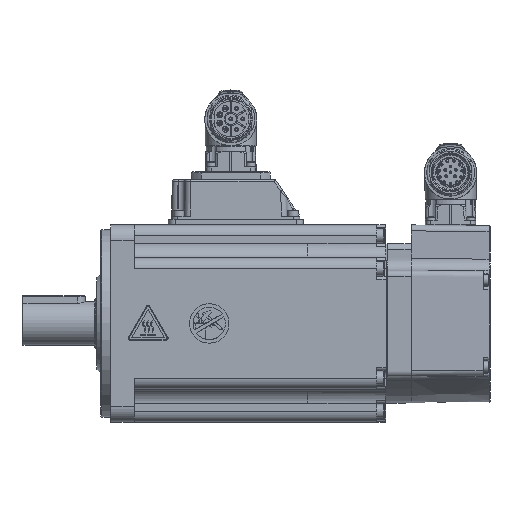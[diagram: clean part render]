
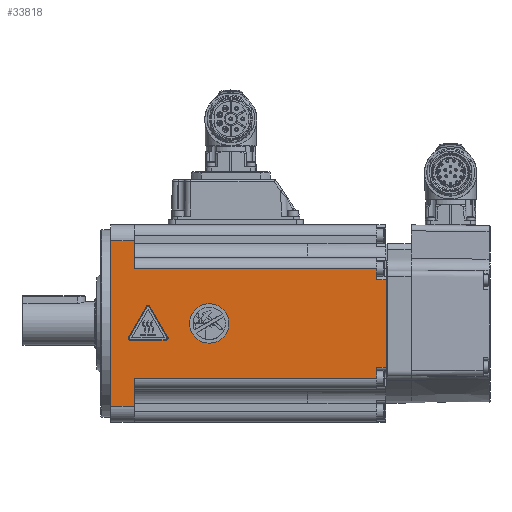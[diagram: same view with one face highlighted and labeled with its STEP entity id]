
A CAD part, front view. The second image highlights one B-rep face of the part: STEP entity #33818.
In plain terms, the highlighted planar face has unit normal (0, -1, 0).
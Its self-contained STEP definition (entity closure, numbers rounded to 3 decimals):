
#33818 = ADVANCED_FACE( '', ( #57172, #57173, #57174 ), #57175, .T. );
#57172 = FACE_BOUND( '', #66822, .T. );
#57173 = FACE_OUTER_BOUND( '', #66823, .T. );
#57174 = FACE_BOUND( '', #66824, .T. );
#57175 = PLANE( '', #66825 );
#58709 = EDGE_CURVE( '', #69211, #69281, #69283, .T. );
#58784 = EDGE_CURVE( 'NONE', #69413, #69414, #69415, .T. );
#60968 = EDGE_CURVE( '', #73000, #72998, #73001, .T. );
#61260 = EDGE_CURVE( '', #73452, #73453, #73454, .F. );
#61713 = EDGE_CURVE( 'NONE', #69414, #74157, #74158, .T. );
#62379 = EDGE_CURVE( 'NONE', #75138, #75140, #75141, .T. );
#63132 = EDGE_CURVE( '', #76242, #76242, #76243, .T. );
#63654 = EDGE_CURVE( '', #76947, #76945, #76948, .F. );
#64239 = EDGE_CURVE( '', #73000, #77735, #77736, .T. );
#64260 = EDGE_CURVE( '', #77766, #77764, #77767, .T. );
#64808 = EDGE_CURVE( '', #78461, #76947, #78462, .T. );
#65486 = EDGE_CURVE( '', #79276, #73453, #79277, .T. );
#65920 = EDGE_CURVE( 'NONE', #74157, #79781, #79782, .T. );
#66118 = EDGE_CURVE( '', #72998, #73452, #79999, .T. );
#66183 = EDGE_CURVE( 'NONE', #75140, #69413, #80072, .T. );
#66494 = EDGE_CURVE( '', #76945, #69211, #80387, .T. );
#66523 = EDGE_CURVE( 'NONE', #79781, #75138, #80420, .T. );
#66573 = EDGE_CURVE( '', #69281, #77766, #80473, .F. );
#66822 = EDGE_LOOP( '', ( #80870 ) );
#66823 = EDGE_LOOP( '', ( #80871, #80872, #80873, #80874, #80875, #80876, #80877, #80878, #80879, #80880, #80881, #80882, #80883 ) );
#66824 = EDGE_LOOP( '', ( #80884, #80885, #80886, #80887, #80888, #80889 ) );
#66825 = AXIS2_PLACEMENT_3D( '', #80890, #80891, #80892 );
#69211 = VERTEX_POINT( '', #85691 );
#69281 = VERTEX_POINT( '', #85779 );
#69283 = LINE( '', #85781, #85782 );
#69413 = VERTEX_POINT( 'NONE', #86152 );
#69414 = VERTEX_POINT( '', #86153 );
#69415 = CIRCLE( '', #86154, 1. );
#72998 = VERTEX_POINT( '', #93334 );
#73000 = VERTEX_POINT( '', #93336 );
#73001 = LINE( '', #93337, #93338 );
#73452 = VERTEX_POINT( '', #94241 );
#73453 = VERTEX_POINT( '', #94242 );
#73454 = LINE( '', #94243, #94244 );
#74157 = VERTEX_POINT( 'NONE', #95786 );
#74158 = LINE( '', #95787, #95788 );
#75138 = VERTEX_POINT( 'NONE', #97857 );
#75140 = VERTEX_POINT( 'NONE', #97860 );
#75141 = CIRCLE( '', #97861, 1. );
#76242 = VERTEX_POINT( '', #100096 );
#76243 = CIRCLE( '', #100097, 10. );
#76945 = VERTEX_POINT( '', #101706 );
#76947 = VERTEX_POINT( '', #101708 );
#76948 = LINE( '', #101709, #101710 );
#77735 = VERTEX_POINT( '', #103370 );
#77736 = LINE( '', #103371, #103372 );
#77764 = VERTEX_POINT( '', #103411 );
#77766 = VERTEX_POINT( '', #103413 );
#77767 = LINE( '', #103414, #103415 );
#78461 = VERTEX_POINT( '', #104696 );
#78462 = LINE( '', #104697, #104698 );
#79276 = VERTEX_POINT( '', #106350 );
#79277 = LINE( '', #106351, #106352 );
#79781 = VERTEX_POINT( 'NONE', #107443 );
#79782 = CIRCLE( '', #107444, 1. );
#79999 = LINE( '', #107835, #107836 );
#80072 = LINE( '', #107946, #107947 );
#80387 = LINE( '', #108348, #108349 );
#80420 = LINE( '', #108404, #108405 );
#80473 = LINE( '', #108463, #108464 );
#80870 = ORIENTED_EDGE( '', *, *, #63132, .F. );
#80871 = ORIENTED_EDGE( '', *, *, #108812, .T. );
#80872 = ORIENTED_EDGE( '', *, *, #64808, .T. );
#80873 = ORIENTED_EDGE( '', *, *, #63654, .T. );
#80874 = ORIENTED_EDGE( '', *, *, #66494, .T. );
#80875 = ORIENTED_EDGE( '', *, *, #58709, .T. );
#80876 = ORIENTED_EDGE( '', *, *, #66573, .T. );
#80877 = ORIENTED_EDGE( '', *, *, #64260, .T. );
#80878 = ORIENTED_EDGE( '', *, *, #108813, .T. );
#80879 = ORIENTED_EDGE( '', *, *, #64239, .F. );
#80880 = ORIENTED_EDGE( '', *, *, #60968, .T. );
#80881 = ORIENTED_EDGE( '', *, *, #66118, .T. );
#80882 = ORIENTED_EDGE( '', *, *, #61260, .T. );
#80883 = ORIENTED_EDGE( '', *, *, #65486, .F. );
#80884 = ORIENTED_EDGE( '', *, *, #62379, .F. );
#80885 = ORIENTED_EDGE( '', *, *, #66523, .F. );
#80886 = ORIENTED_EDGE( '', *, *, #65920, .F. );
#80887 = ORIENTED_EDGE( '', *, *, #61713, .F. );
#80888 = ORIENTED_EDGE( '', *, *, #58784, .F. );
#80889 = ORIENTED_EDGE( '', *, *, #66183, .F. );
#80890 = CARTESIAN_POINT( '', ( 111.642, -50., -50. ) );
#80891 = DIRECTION( '', ( 0., -1., 0. ) );
#80892 = DIRECTION( '', ( 1., 0., 0. ) );
#85691 = CARTESIAN_POINT( '', ( -8.25, -50., 0. ) );
#85779 = CARTESIAN_POINT( '', ( -8.444, -50., 22.25 ) );
#85781 = CARTESIAN_POINT( '', ( -8.69, -50., 50.448 ) );
#85782 = VECTOR( '', #110712, 1000. );
#86152 = CARTESIAN_POINT( '', ( -120.117, -50., -8.5 ) );
#86153 = CARTESIAN_POINT( '', ( -119.251, -50., -7. ) );
#86154 = AXIS2_PLACEMENT_3D( '', #110798, #110799, #110800 );
#93334 = CARTESIAN_POINT( '', ( -148.25, -50., 42. ) );
#93336 = CARTESIAN_POINT( '', ( -136.25, -50., 42. ) );
#93337 = CARTESIAN_POINT( '', ( 111.642, -50., 42. ) );
#93338 = VECTOR( '', #113486, 1000. );
#94241 = CARTESIAN_POINT( '', ( -148.25, -50., -42. ) );
#94242 = CARTESIAN_POINT( '', ( -136.25, -50., -42. ) );
#94243 = CARTESIAN_POINT( '', ( 111.642, -50., -42. ) );
#94244 = VECTOR( '', #113830, 1000. );
#95786 = CARTESIAN_POINT( '', ( -128.384, -50., 8.801 ) );
#95787 = CARTESIAN_POINT( '', ( -128.384, -50., 8.801 ) );
#95788 = VECTOR( '', #114344, 1000. );
#97857 = CARTESIAN_POINT( '', ( -139.249, -50., -7. ) );
#97860 = CARTESIAN_POINT( '', ( -138.383, -50., -8.5 ) );
#97861 = AXIS2_PLACEMENT_3D( '', #115048, #115049, #115050 );
#100096 = CARTESIAN_POINT( '', ( -88.25, -50., 0. ) );
#100097 = AXIS2_PLACEMENT_3D( '', #115874, #115875, #115876 );
#101706 = CARTESIAN_POINT( '', ( -8.444, -50., -22.25 ) );
#101708 = CARTESIAN_POINT( '', ( -13.25, -50., -22.25 ) );
#101709 = CARTESIAN_POINT( '', ( -8.25, -50., -22.25 ) );
#101710 = VECTOR( '', #116376, 1000. );
#103370 = CARTESIAN_POINT( '', ( -136.25, -50., 27.75 ) );
#103371 = CARTESIAN_POINT( '', ( -136.25, -50., -50. ) );
#103372 = VECTOR( '', #117010, 1000. );
#103411 = CARTESIAN_POINT( '', ( -13.25, -50., 27.75 ) );
#103413 = CARTESIAN_POINT( '', ( -13.25, -50., 22.25 ) );
#103414 = CARTESIAN_POINT( '', ( -13.25, -50., 50. ) );
#103415 = VECTOR( '', #117041, 1000. );
#104696 = CARTESIAN_POINT( '', ( -13.25, -50., -27.75 ) );
#104697 = CARTESIAN_POINT( '', ( -13.25, -50., 50. ) );
#104698 = VECTOR( '', #117594, 1000. );
#106350 = CARTESIAN_POINT( '', ( -136.25, -50., -27.75 ) );
#106351 = CARTESIAN_POINT( '', ( -136.25, -50., -50. ) );
#106352 = VECTOR( '', #118186, 1000. );
#107443 = CARTESIAN_POINT( '', ( -130.116, -50., 8.801 ) );
#107444 = AXIS2_PLACEMENT_3D( '', #118500, #118501, #118502 );
#107835 = CARTESIAN_POINT( '', ( -148.25, -50., -50. ) );
#107836 = VECTOR( '', #118630, 1000. );
#107946 = CARTESIAN_POINT( '', ( -138.383, -50., -8.5 ) );
#107947 = VECTOR( '', #118683, 1000. );
#108348 = CARTESIAN_POINT( '', ( -7.818, -50., 49.545 ) );
#108349 = VECTOR( '', #118801, 1000. );
#108404 = CARTESIAN_POINT( '', ( -139.249, -50., -7. ) );
#108405 = VECTOR( '', #118817, 1000. );
#108463 = CARTESIAN_POINT( '', ( -13.25, -50., 22.25 ) );
#108464 = VECTOR( '', #118835, 1000. );
#108812 = EDGE_CURVE( '', #79276, #78461, #118989, .T. );
#108813 = EDGE_CURVE( '', #77764, #77735, #118990, .T. );
#110712 = DIRECTION( '', ( -0.009, 0., 1. ) );
#110798 = CARTESIAN_POINT( '', ( -120.117, -50., -7.5 ) );
#110799 = DIRECTION( '', ( 0., -1., 0. ) );
#110800 = DIRECTION( '', ( 1., 0., 0. ) );
#113486 = DIRECTION( '', ( -1., 0., 0. ) );
#113830 = DIRECTION( '', ( -1., 0., 0. ) );
#114344 = DIRECTION( '', ( -0.5, 0., 0.866 ) );
#115048 = CARTESIAN_POINT( '', ( -138.383, -50., -7.5 ) );
#115049 = DIRECTION( '', ( 0., -1., 0. ) );
#115050 = DIRECTION( '', ( -1., 0., 0. ) );
#115874 = CARTESIAN_POINT( '', ( -98.25, -50., 0. ) );
#115875 = DIRECTION( '', ( 0., -1., 0. ) );
#115876 = DIRECTION( '', ( 1., 0., 0. ) );
#116376 = DIRECTION( '', ( -1., 0., 0. ) );
#117010 = DIRECTION( '', ( 0., 0., -1. ) );
#117041 = DIRECTION( '', ( 0., 0., 1. ) );
#117594 = DIRECTION( '', ( 0., 0., 1. ) );
#118186 = DIRECTION( '', ( 0., 0., -1. ) );
#118500 = CARTESIAN_POINT( '', ( -129.25, -50., 8.301 ) );
#118501 = DIRECTION( '', ( 0., -1., 0. ) );
#118502 = DIRECTION( '', ( -1., 0., 0. ) );
#118630 = DIRECTION( '', ( 0., 0., -1. ) );
#118683 = DIRECTION( '', ( 1., 0., 0. ) );
#118801 = DIRECTION( '', ( 0.009, 0., 1. ) );
#118817 = DIRECTION( '', ( -0.5, 0., -0.866 ) );
#118835 = DIRECTION( '', ( 1., 0., 0. ) );
#118989 = LINE( '', #119606, #119607 );
#118990 = LINE( '', #119608, #119609 );
#119606 = CARTESIAN_POINT( '', ( 111.642, -50., -27.75 ) );
#119607 = VECTOR( '', #120413, 1000. );
#119608 = CARTESIAN_POINT( '', ( 111.642, -50., 27.75 ) );
#119609 = VECTOR( '', #120414, 1000. );
#120413 = DIRECTION( '', ( 1., 0., 0. ) );
#120414 = DIRECTION( '', ( -1., 0., 0. ) );
